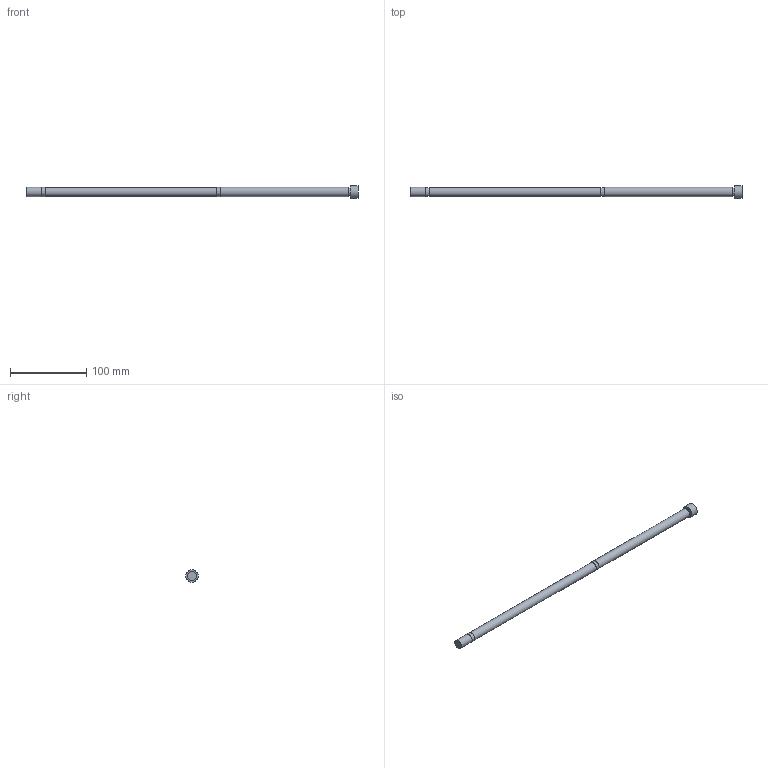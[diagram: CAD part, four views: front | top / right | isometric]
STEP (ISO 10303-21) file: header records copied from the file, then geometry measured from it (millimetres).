
FILE_DESCRIPTION(('STEP AP203'), '1');
FILE_NAME('34 Òîëêàòåëü _ ÏÔÍ 295 10634', '', ('UNSPECIFIED'), ('UNSPECIFIED'), 'C3D Converter', 'C3D Toolkit', '');
FILE_SCHEMA(('CONFIG_CONTROL_DESIGN'));
Length unit declared in the file: millimetre
Products named in the file (1): ПФН 295 106/34
Bounding box: 435.6 x 16 x 16 mm (x, y, z)
Volume: 49264.2 mm3; surface area: 16820 mm2
Topology: 1 solids, 1 shells, 11 faces, 17 edges, 10 vertices
Faces by surface type: cylinder 5, plane 4, cone 2
Full cylindrical faces by diameter (mm): 11.5 x1, 11.8 x1, 12 x2, 16 x1
Entity records: 337 total; most frequent: DIRECTION 44, CARTESIAN_POINT 32, AXIS2_PLACEMENT_3D 22, EDGE_LOOP 20, ORIENTED_EDGE 20, FACE_OUTER_BOUND 14, COLOUR_RGB 12, FILL_AREA_STYLE_COLOUR 12
